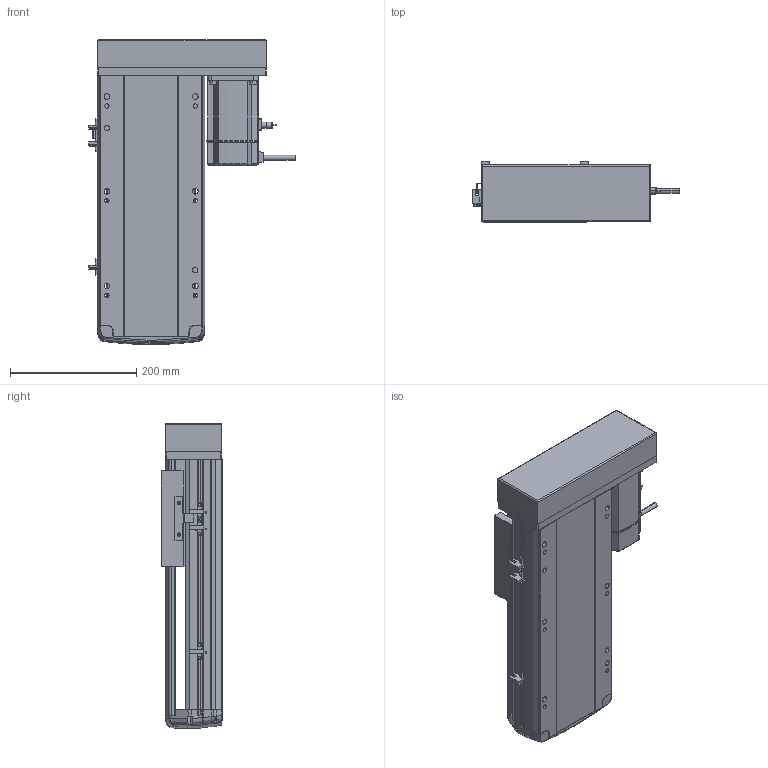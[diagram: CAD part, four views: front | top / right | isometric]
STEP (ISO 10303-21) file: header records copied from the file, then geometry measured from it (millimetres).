
FILE_DESCRIPTION (( 'STEP AP214' ), '1' );
FILE_NAME ('RTH17-XX-200-L-M75-C4.STEP', '2025-10-24T10:30:42', ( '' ), ( '' ), 'SwSTEP 2.0', 'SolidWorks 2018', '' );
FILE_SCHEMA (( 'AUTOMOTIVE_DESIGN' ));
Length unit declared in the file: millimetre
Products named in the file (10): N_RTH17-E-004丝杆螺母连接座^RTH17-XX-XX-L-M75-C4（方程式）; N_M75^RTH17-XX-XX-L-M75-C4（方程式）; N_RTH17-M-011底座^RTH17-XX-XX-L-M75-C4（方程式）; RTH17-XX-200-L-M75-C4; N_RTH17-L-018盖子^RTH17-XX-XX-L-M75-C4（方程式）; N_RTH17-M-007上盖^RTH17-XX-XX-L-M75-C4（方程式）; N_RTH-L-012 感应片(外置)^RTH17-XX-XX-L-M75-C4（方程式）; N_RTH17-GY-001P^RTH17-XX-XX-L-M75-C4（方程式）; N_OMRON EE-SX672 換覜ん^RTH17-XX-XX-L-M75-C4ㄗ源最宒ㄘ; N_RTH17-L-008-P75电机安装板左转折^RTH17-XX-XX-L-M75-C4（方程式）
Assembly tree (11 placements, depth 2):
  RTH17-XX-200-L-M75-C4
    N_RTH17-M-011底座^RTH17-XX-XX-L-M75-C4（方程式）
    N_RTH17-M-007上盖^RTH17-XX-XX-L-M75-C4（方程式）
    N_M75^RTH17-XX-XX-L-M75-C4（方程式）
    N_OMRON EE-SX672 換覜ん^RTH17-XX-XX-L-M75-C4ㄗ源最宒ㄘ  x3
    N_RTH-L-012 感应片(外置)^RTH17-XX-XX-L-M75-C4（方程式）
    N_RTH17-L-008-P75电机安装板左转折^RTH17-XX-XX-L-M75-C4（方程式）
    N_RTH17-L-018盖子^RTH17-XX-XX-L-M75-C4（方程式）
    N_RTH17-E-004丝杆螺母连接座^RTH17-XX-XX-L-M75-C4（方程式）
    N_RTH17-GY-001P^RTH17-XX-XX-L-M75-C4（方程式）
Bounding box: 326.7 x 97 x 483.07 mm (x, y, z)
Volume: 5716281.5 mm3; surface area: 719885.4 mm2
Topology: 13 solids, 15 shells, 1709 faces, 4673 edges, 3022 vertices
Faces by surface type: plane 827, cylinder 468, bspline 377, cone 28, torus 9
Entity records: 49097 total; most frequent: CARTESIAN_POINT 19733, ORIENTED_EDGE 6370, DIRECTION 5293, EDGE_CURVE 3189, VERTEX_POINT 2058, AXIS2_PLACEMENT_3D 1765, LINE 1763, VECTOR 1763
